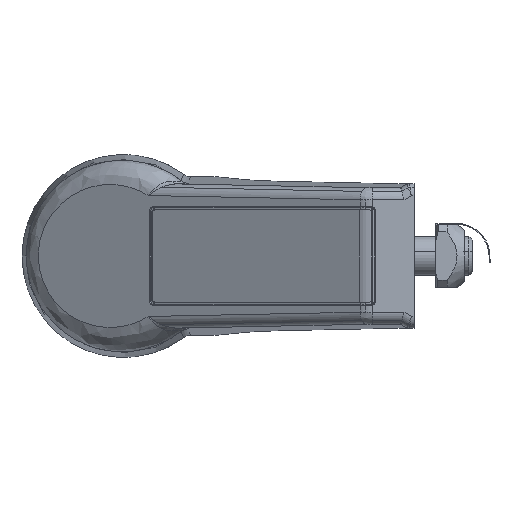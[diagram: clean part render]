
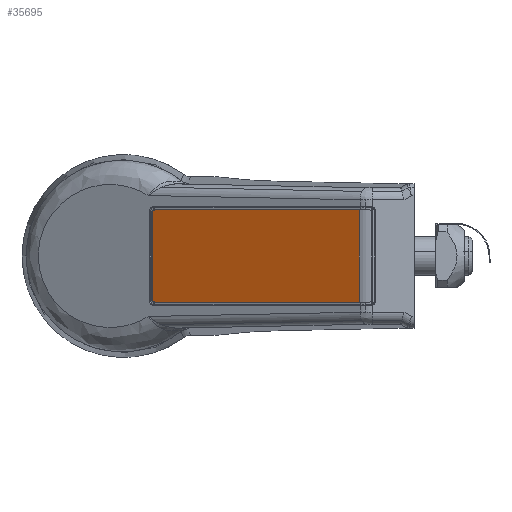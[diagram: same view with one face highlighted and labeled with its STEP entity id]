
A CAD part, left-side view. The second image highlights one B-rep face of the part: STEP entity #35695.
In plain terms, the highlighted planar face has unit normal (-0.866, 0.5, 0).
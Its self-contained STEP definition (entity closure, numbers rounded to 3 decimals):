
#976 = LINE ( 'NONE', #14968, #17670 ) ;
#1009 = CARTESIAN_POINT ( 'NONE',  ( -194.23, -48.872, -10.577 ) ) ;
#1182 = CARTESIAN_POINT ( 'NONE',  ( -169.721, -6.42, 7.923 ) ) ;
#3303 = FACE_OUTER_BOUND ( 'NONE', #39670, .T. ) ;
#3739 = CIRCLE ( 'NONE', #36354, 0.5 ) ;
#4154 = DIRECTION ( 'NONE',  ( -0.866, 0.5, 0. ) ) ;
#4522 = AXIS2_PLACEMENT_3D ( 'NONE', #18509, #4154, #35375 ) ;
#4738 = CIRCLE ( 'NONE', #45772, 0.5 ) ;
#5271 = EDGE_CURVE ( 'NONE', #56066, #22714, #10724, .T. ) ;
#5448 = DIRECTION ( 'NONE',  ( 0.354, 0.612, -0.707 ) ) ;
#7140 = EDGE_CURVE ( 'NONE', #46828, #56066, #976, .T. ) ;
#8433 = CARTESIAN_POINT ( 'NONE',  ( -169.471, -5.987, 7.923 ) ) ;
#8507 = CARTESIAN_POINT ( 'NONE',  ( -194.23, -48.872, -10.577 ) ) ;
#10724 = LINE ( 'NONE', #16010, #16361 ) ;
#10852 = VERTEX_POINT ( 'NONE', #50966 ) ;
#11113 = CARTESIAN_POINT ( 'NONE',  ( -169.471, -5.987, -10.077 ) ) ;
#12053 = VERTEX_POINT ( 'NONE', #30622 ) ;
#12287 = DIRECTION ( 'NONE',  ( 0.5, 0.866, 0. ) ) ;
#13343 = EDGE_CURVE ( 'NONE', #12053, #17364, #16360, .T. ) ;
#13787 = VERTEX_POINT ( 'NONE', #46310 ) ;
#14483 = EDGE_CURVE ( 'NONE', #13787, #22714, #3739, .T. ) ;
#14606 = DIRECTION ( 'NONE',  ( 0.866, -0.5, 0. ) ) ;
#14681 = DIRECTION ( 'NONE',  ( 0., 0., 1. ) ) ;
#14882 = CARTESIAN_POINT ( 'NONE',  ( -169.721, -6.42, 8.423 ) ) ;
#14968 = CARTESIAN_POINT ( 'NONE',  ( -194.23, -48.872, -10.577 ) ) ;
#16010 = CARTESIAN_POINT ( 'NONE',  ( -194.23, -48.872, 8.423 ) ) ;
#16360 = LINE ( 'NONE', #8433, #34305 ) ;
#16361 = VECTOR ( 'NONE', #24221, 1000. ) ;
#17364 = VERTEX_POINT ( 'NONE', #11113 ) ;
#17670 = VECTOR ( 'NONE', #14681, 1000. ) ;
#18509 = CARTESIAN_POINT ( 'NONE',  ( -169.721, -6.42, -10.077 ) ) ;
#20164 = AXIS2_PLACEMENT_3D ( 'NONE', #29856, #21718, #43952 ) ;
#21718 = DIRECTION ( 'NONE',  ( -0.866, 0.5, 0. ) ) ;
#22714 = VERTEX_POINT ( 'NONE', #14882 ) ;
#24221 = DIRECTION ( 'NONE',  ( 0.5, 0.866, 0. ) ) ;
#25970 = ORIENTED_EDGE ( 'NONE', *, *, #13343, .T. ) ;
#25992 = DIRECTION ( 'NONE',  ( 0., 0., -1. ) ) ;
#29661 = CIRCLE ( 'NONE', #4522, 0.5 ) ;
#29856 = CARTESIAN_POINT ( 'NONE',  ( -169.221, -5.554, 8.923 ) ) ;
#29916 = ORIENTED_EDGE ( 'NONE', *, *, #56872, .T. ) ;
#30622 = CARTESIAN_POINT ( 'NONE',  ( -169.471, -5.987, 7.923 ) ) ;
#32398 = DIRECTION ( 'NONE',  ( 0.354, 0.612, 0.707 ) ) ;
#33138 = CARTESIAN_POINT ( 'NONE',  ( -169.721, -6.42, -10.077 ) ) ;
#34305 = VECTOR ( 'NONE', #25992, 1000. ) ;
#35364 = CARTESIAN_POINT ( 'NONE',  ( -169.721, -6.42, -10.577 ) ) ;
#35375 = DIRECTION ( 'NONE',  ( 0.354, 0.612, -0.707 ) ) ;
#35695 = ADVANCED_FACE ( 'NONE', ( #3303 ), #38658, .T. ) ;
#36354 = AXIS2_PLACEMENT_3D ( 'NONE', #50280, #36801, #54696 ) ;
#36460 = CARTESIAN_POINT ( 'NONE',  ( -194.23, -48.872, 8.423 ) ) ;
#36801 = DIRECTION ( 'NONE',  ( 0.866, -0.5, 0. ) ) ;
#37130 = VECTOR ( 'NONE', #12287, 1000. ) ;
#37704 = EDGE_CURVE ( 'NONE', #46828, #53117, #43624, .T. ) ;
#38658 = PLANE ( 'NONE',  #20164 ) ;
#39670 = EDGE_LOOP ( 'NONE', ( #25970, #47211, #29916, #57618, #50082, #41389, #55654, #42002 ) ) ;
#40505 = AXIS2_PLACEMENT_3D ( 'NONE', #33138, #55133, #5448 ) ;
#41389 = ORIENTED_EDGE ( 'NONE', *, *, #5271, .T. ) ;
#42002 = ORIENTED_EDGE ( 'NONE', *, *, #57850, .F. ) ;
#43318 = CIRCLE ( 'NONE', #40505, 0.5 ) ;
#43624 = LINE ( 'NONE', #8507, #37130 ) ;
#43952 = DIRECTION ( 'NONE',  ( 0.5, 0.866, 0. ) ) ;
#45772 = AXIS2_PLACEMENT_3D ( 'NONE', #1182, #14606, #32398 ) ;
#45825 = EDGE_CURVE ( 'NONE', #17364, #10852, #43318, .T. ) ;
#46310 = CARTESIAN_POINT ( 'NONE',  ( -169.544, -6.114, 8.277 ) ) ;
#46828 = VERTEX_POINT ( 'NONE', #1009 ) ;
#47211 = ORIENTED_EDGE ( 'NONE', *, *, #45825, .T. ) ;
#50082 = ORIENTED_EDGE ( 'NONE', *, *, #7140, .T. ) ;
#50280 = CARTESIAN_POINT ( 'NONE',  ( -169.721, -6.42, 7.923 ) ) ;
#50966 = CARTESIAN_POINT ( 'NONE',  ( -169.544, -6.114, -10.43 ) ) ;
#53117 = VERTEX_POINT ( 'NONE', #35364 ) ;
#54696 = DIRECTION ( 'NONE',  ( 0.354, 0.612, 0.707 ) ) ;
#55133 = DIRECTION ( 'NONE',  ( -0.866, 0.5, 0. ) ) ;
#55654 = ORIENTED_EDGE ( 'NONE', *, *, #14483, .F. ) ;
#56066 = VERTEX_POINT ( 'NONE', #36460 ) ;
#56872 = EDGE_CURVE ( 'NONE', #10852, #53117, #29661, .T. ) ;
#57618 = ORIENTED_EDGE ( 'NONE', *, *, #37704, .F. ) ;
#57850 = EDGE_CURVE ( 'NONE', #12053, #13787, #4738, .T. ) ;
